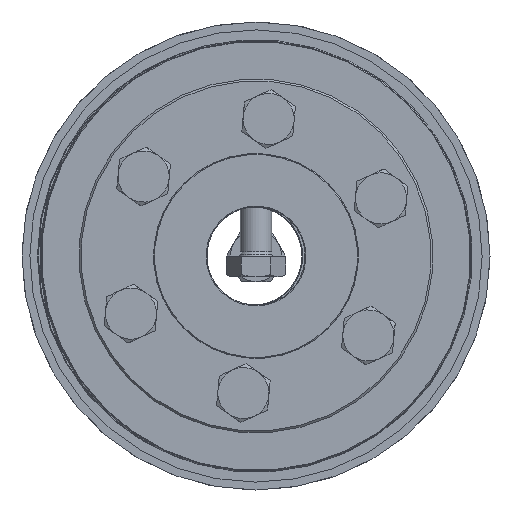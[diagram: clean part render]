
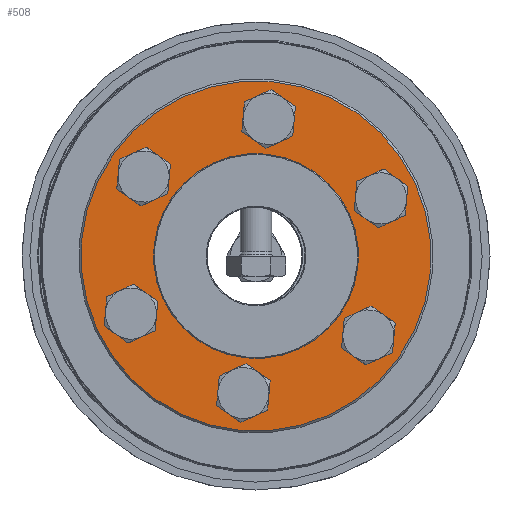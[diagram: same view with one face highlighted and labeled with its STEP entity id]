
A CAD part, left-side view. The second image highlights one B-rep face of the part: STEP entity #508.
In plain terms, the highlighted planar face has unit normal (-1, 0, 0).
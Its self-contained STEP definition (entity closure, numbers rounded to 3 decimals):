
#508 = ADVANCED_FACE( 'NONE', ( #827, #828, #829, #830, #831, #832, #833, #834 ), #835, .F. );
#827 = FACE_OUTER_BOUND( '', #1476, .T. );
#828 = FACE_BOUND( '', #1477, .T. );
#829 = FACE_BOUND( '', #1478, .T. );
#830 = FACE_BOUND( '', #1479, .T. );
#831 = FACE_BOUND( '', #1480, .T. );
#832 = FACE_BOUND( '', #1481, .T. );
#833 = FACE_BOUND( '', #1482, .T. );
#834 = FACE_BOUND( '', #1483, .T. );
#835 = PLANE( '', #1484 );
#1476 = EDGE_LOOP( '', ( #2225 ) );
#1477 = EDGE_LOOP( '', ( #2226 ) );
#1478 = EDGE_LOOP( '', ( #2227 ) );
#1479 = EDGE_LOOP( '', ( #2228 ) );
#1480 = EDGE_LOOP( '', ( #2229 ) );
#1481 = EDGE_LOOP( '', ( #2230 ) );
#1482 = EDGE_LOOP( '', ( #2231 ) );
#1483 = EDGE_LOOP( '', ( #2232 ) );
#1484 = AXIS2_PLACEMENT_3D( '', #2233, #2234, #2235 );
#2225 = ORIENTED_EDGE( '', *, *, #3750, .T. );
#2226 = ORIENTED_EDGE( '', *, *, #3751, .T. );
#2227 = ORIENTED_EDGE( '', *, *, #3752, .T. );
#2228 = ORIENTED_EDGE( '', *, *, #3753, .T. );
#2229 = ORIENTED_EDGE( '', *, *, #3754, .T. );
#2230 = ORIENTED_EDGE( '', *, *, #3746, .T. );
#2231 = ORIENTED_EDGE( '', *, *, #3755, .T. );
#2232 = ORIENTED_EDGE( '', *, *, #3756, .F. );
#2233 = CARTESIAN_POINT( '', ( 0., 26., 0. ) );
#2234 = DIRECTION( '', ( 1., 0., 0. ) );
#2235 = DIRECTION( '', ( 0., 1., 0. ) );
#3746 = EDGE_CURVE( 'NONE', #4099, #4099, #4100, .T. );
#3750 = EDGE_CURVE( 'NONE', #4107, #4107, #4108, .T. );
#3751 = EDGE_CURVE( 'NONE', #4109, #4109, #4110, .T. );
#3752 = EDGE_CURVE( 'NONE', #4111, #4111, #4112, .T. );
#3753 = EDGE_CURVE( 'NONE', #4113, #4113, #4114, .T. );
#3754 = EDGE_CURVE( 'NONE', #4115, #4115, #4116, .T. );
#3755 = EDGE_CURVE( 'NONE', #4117, #4117, #4118, .T. );
#3756 = EDGE_CURVE( 'NONE', #4119, #4119, #4120, .T. );
#4099 = VERTEX_POINT( '', #4703 );
#4100 = CIRCLE( '', #4704, 4.5 );
#4107 = VERTEX_POINT( '', #4711 );
#4108 = CIRCLE( '', #4712, 44.5 );
#4109 = VERTEX_POINT( '', #4713 );
#4110 = CIRCLE( '', #4714, 4.5 );
#4111 = VERTEX_POINT( '', #4715 );
#4112 = CIRCLE( '', #4716, 4.5 );
#4113 = VERTEX_POINT( '', #4717 );
#4114 = CIRCLE( '', #4718, 4.5 );
#4115 = VERTEX_POINT( '', #4719 );
#4116 = CIRCLE( '', #4720, 4.5 );
#4117 = VERTEX_POINT( '', #4721 );
#4118 = CIRCLE( '', #4722, 4.5 );
#4119 = VERTEX_POINT( '', #4723 );
#4120 = CIRCLE( '', #4724, 26. );
#4703 = CARTESIAN_POINT( '', ( 0., 17.5, -34.811 ) );
#4704 = AXIS2_PLACEMENT_3D( '', #5364, #5365, #5366 );
#4711 = CARTESIAN_POINT( '', ( 0., 0., -44.5 ) );
#4712 = AXIS2_PLACEMENT_3D( '', #5376, #5377, #5378 );
#4713 = CARTESIAN_POINT( '', ( 0., 17.5, 25.811 ) );
#4714 = AXIS2_PLACEMENT_3D( '', #5379, #5380, #5381 );
#4715 = CARTESIAN_POINT( '', ( 0., -17.5, 25.811 ) );
#4716 = AXIS2_PLACEMENT_3D( '', #5382, #5383, #5384 );
#4717 = CARTESIAN_POINT( '', ( 0., -35., -4.5 ) );
#4718 = AXIS2_PLACEMENT_3D( '', #5385, #5386, #5387 );
#4719 = CARTESIAN_POINT( '', ( 0., -17.5, -34.811 ) );
#4720 = AXIS2_PLACEMENT_3D( '', #5388, #5389, #5390 );
#4721 = CARTESIAN_POINT( '', ( 0., 35., -4.5 ) );
#4722 = AXIS2_PLACEMENT_3D( '', #5391, #5392, #5393 );
#4723 = CARTESIAN_POINT( '', ( 0., 0., 26. ) );
#4724 = AXIS2_PLACEMENT_3D( '', #5394, #5395, #5396 );
#5364 = CARTESIAN_POINT( '', ( 0., 17.5, -30.311 ) );
#5365 = DIRECTION( '', ( 1., 0., 0. ) );
#5366 = DIRECTION( '', ( 0., 0., -1. ) );
#5376 = CARTESIAN_POINT( '', ( 0., 0., 0. ) );
#5377 = DIRECTION( '', ( -1., 0., 0. ) );
#5378 = DIRECTION( '', ( 0., 0., -1. ) );
#5379 = CARTESIAN_POINT( '', ( 0., 17.5, 30.311 ) );
#5380 = DIRECTION( '', ( 1., 0., 0. ) );
#5381 = DIRECTION( '', ( 0., 0., -1. ) );
#5382 = CARTESIAN_POINT( '', ( 0., -17.5, 30.311 ) );
#5383 = DIRECTION( '', ( 1., 0., 0. ) );
#5384 = DIRECTION( '', ( 0., 0., -1. ) );
#5385 = CARTESIAN_POINT( '', ( 0., -35., 0. ) );
#5386 = DIRECTION( '', ( 1., 0., 0. ) );
#5387 = DIRECTION( '', ( 0., 0., -1. ) );
#5388 = CARTESIAN_POINT( '', ( 0., -17.5, -30.311 ) );
#5389 = DIRECTION( '', ( 1., 0., 0. ) );
#5390 = DIRECTION( '', ( 0., 0., -1. ) );
#5391 = CARTESIAN_POINT( '', ( 0., 35., 0. ) );
#5392 = DIRECTION( '', ( 1., 0., 0. ) );
#5393 = DIRECTION( '', ( 0., 0., -1. ) );
#5394 = CARTESIAN_POINT( '', ( 0., 0., 0. ) );
#5395 = DIRECTION( '', ( -1., 0., 0. ) );
#5396 = DIRECTION( '', ( 0., 0., 1. ) );
